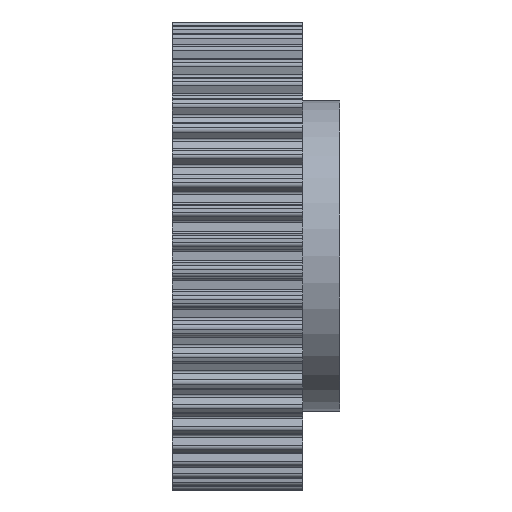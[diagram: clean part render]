
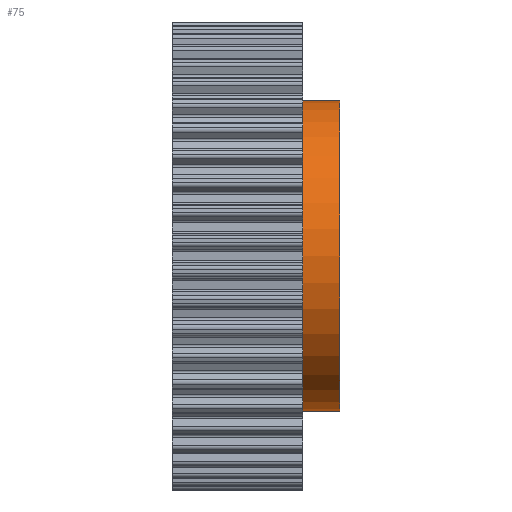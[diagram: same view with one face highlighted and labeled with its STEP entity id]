
A CAD part, front view. The second image highlights one B-rep face of the part: STEP entity #75.
In plain terms, the highlighted cylindrical face has radius 25 mm (diameter 50 mm), a full revolution.
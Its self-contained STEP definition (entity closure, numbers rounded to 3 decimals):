
#75 = ADVANCED_FACE( '', ( #465, #466 ), #467, .T. );
#465 = FACE_OUTER_BOUND( '', #1248, .T. );
#466 = FACE_OUTER_BOUND( '', #1249, .T. );
#467 = CYLINDRICAL_SURFACE( '', #1250, 25. );
#1248 = EDGE_LOOP( '', ( #2031 ) );
#1249 = EDGE_LOOP( '', ( #2032 ) );
#1250 = AXIS2_PLACEMENT_3D( '', #2033, #2034, #2035 );
#2031 = ORIENTED_EDGE( '', *, *, #5510, .F. );
#2032 = ORIENTED_EDGE( '', *, *, #5511, .T. );
#2033 = CARTESIAN_POINT( '', ( 27., 0., 0. ) );
#2034 = DIRECTION( '', ( -1., 0., 0. ) );
#2035 = DIRECTION( '', ( 0., 0., -1. ) );
#5510 = EDGE_CURVE( '', #6666, #6666, #6667, .T. );
#5511 = EDGE_CURVE( '', #6668, #6668, #6669, .T. );
#6666 = VERTEX_POINT( '', #8594 );
#6667 = CIRCLE( '', #8595, 25. );
#6668 = VERTEX_POINT( '', #8596 );
#6669 = CIRCLE( '', #8597, 25. );
#8594 = CARTESIAN_POINT( '', ( 27., 0., -25. ) );
#8595 = AXIS2_PLACEMENT_3D( '', #11194, #11195, #11196 );
#8596 = CARTESIAN_POINT( '', ( 21., 0., -25. ) );
#8597 = AXIS2_PLACEMENT_3D( '', #11197, #11198, #11199 );
#11194 = CARTESIAN_POINT( '', ( 27., 0., 0. ) );
#11195 = DIRECTION( '', ( 1., 0., 0. ) );
#11196 = DIRECTION( '', ( 0., 0., -1. ) );
#11197 = CARTESIAN_POINT( '', ( 21., 0., 0. ) );
#11198 = DIRECTION( '', ( 1., 0., 0. ) );
#11199 = DIRECTION( '', ( 0., 0., -1. ) );
